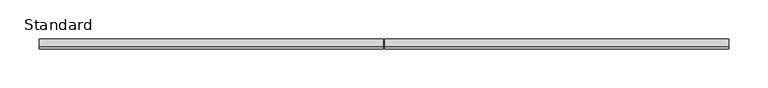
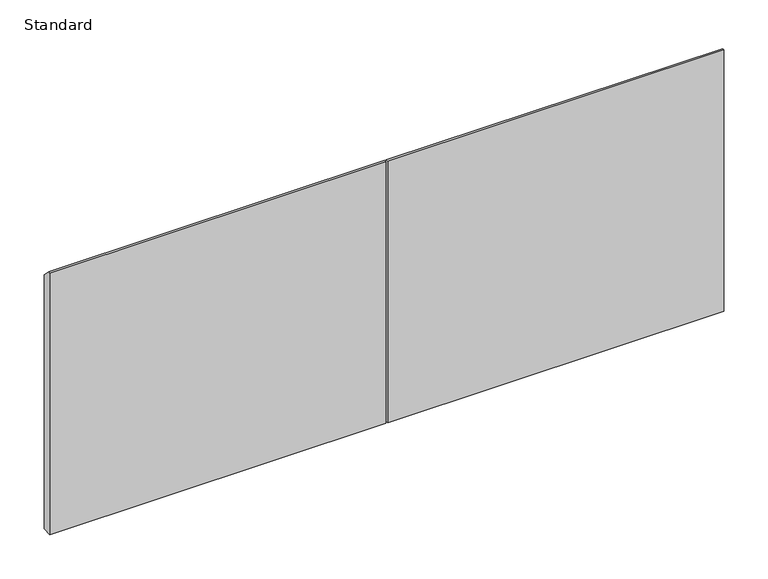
"""IFC4 building model written with IfcOpenShell, lengths in millimetres: furniture geometry, X_Partition-Compact Laminate-Duracube-Vanity Door : Standard."""

from ifc_helpers import new_model, si_unit, frame, origin, place, context, project, spatial, polyline, outline, extrude, source, transform, mapped, element, save


def standard_a5373379(model_context):
    return source(origin(), model_context, "Body", "SweptSolid", [
        extrude(outline(polyline([(-13.0, 662.0), (-10.0, 662.0), (0.0, 652.0), (0.0, 300.0), (-13.0, 300.0), (-13.0, 662.0)])), frame((-396.2996736, 0.0, 0.0), z_axis=(1.0, 0.0, 0.0), x_axis=(0.0, 1.0, 0.0)), (0.0, 0.0, 1.0), 439.75),
        extrude(outline(polyline([(-13.0, 662.0), (-10.0, 662.0), (0.0, 652.0), (0.0, 300.0), (-13.0, 300.0), (-13.0, 662.0)])), frame((45.9503264, 0.0, 0.0), z_axis=(1.0, 0.0, 0.0), x_axis=(0.0, 1.0, 0.0)), (0.0, 0.0, 1.0), 439.75),
    ])


if __name__ == "__main__":
    model = new_model("IFC4")
    model_context = context("Model", 3, world=origin())
    ifc_project = project(units=[si_unit("LENGTHUNIT", "METRE", prefix="MILLI")], contexts=[model_context])
    site = spatial("IfcSite", under=ifc_project)
    building = spatial("IfcBuilding", under=site)
    placement = place(None, origin())
    standard_shape = standard_a5373379(model_context)
    element("IfcFurniture", 1, ObjectType="X_Partition-Compact Laminate-Duracube-Vanity Door : Standard", at=placement, inside=building, context=model_context, shape_type="MappedRepresentation", body=[
        mapped(standard_shape, transform((0.0, 0.0, 0.0), x_axis=(1.0, 0.0, 0.0), y_axis=(0.0, 1.0, 0.0), z_axis=(0.0, 0.0, 1.0))),
    ])
    save(model, "model.ifc")
